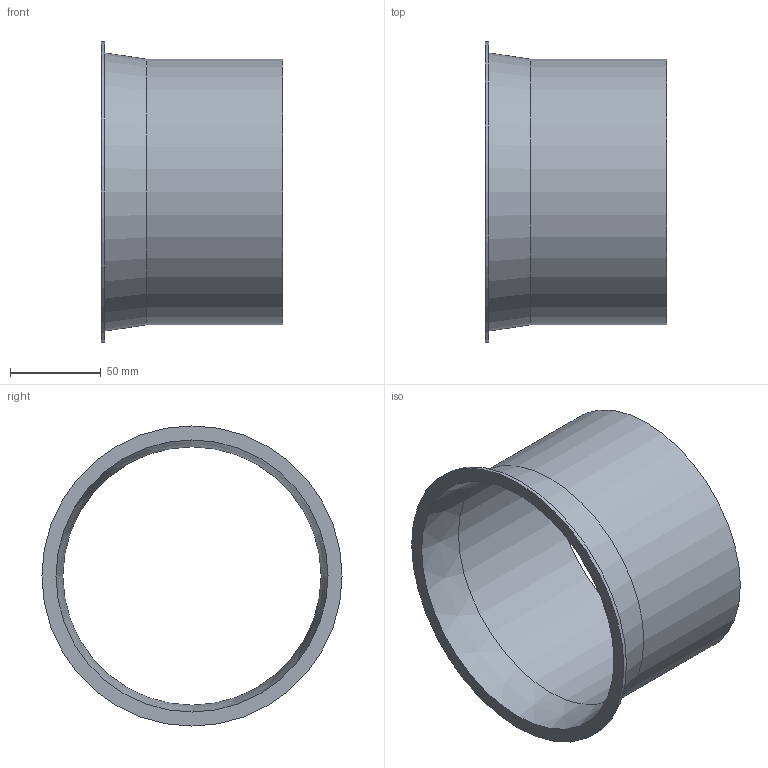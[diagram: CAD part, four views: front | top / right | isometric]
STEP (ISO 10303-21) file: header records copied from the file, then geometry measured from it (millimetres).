
FILE_DESCRIPTION((''),'2;1');
FILE_NAME('U:\Wolfgang\Marcel-3D\fertig\Kapitel 1\1511009.stp','2010-05-31T11:08:29',('TK2'),(''),'Autodesk Inventor 2010','Autodesk Inventor 2010','');
FILE_SCHEMA(('AUTOMOTIVE_DESIGN { 1 0 10303 214 1 1 1 1 }'));
Length unit declared in the file: millimetre
Products named in the file (1): 1511009
Bounding box: 100 x 165 x 165 mm (x, y, z)
Volume: 97186 mm3; surface area: 99116.5 mm2
Topology: 1 solids, 1 shells, 8 faces, 14 edges, 9 vertices
Faces by surface type: cylinder 3, plane 3, cone 2
Full cylindrical faces by diameter (mm): 142 x1, 146 x1, 165 x1
Entity records: 194 total; most frequent: DIRECTION 34, CARTESIAN_POINT 25, AXIS2_PLACEMENT_3D 17, ORIENTED_EDGE 16, EDGE_LOOP 16, VERTEX_POINT 8, CIRCLE 8, EDGE_CURVE 8
